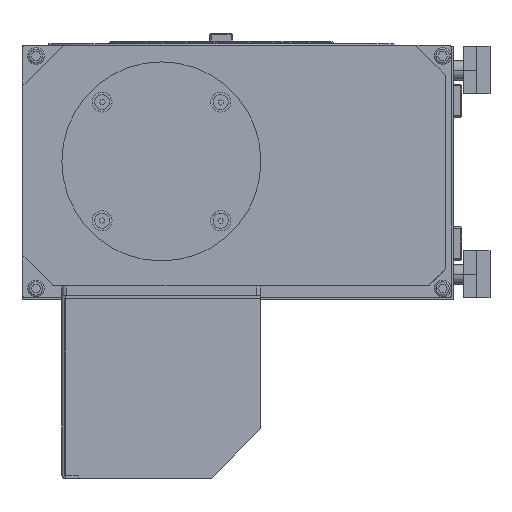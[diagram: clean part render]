
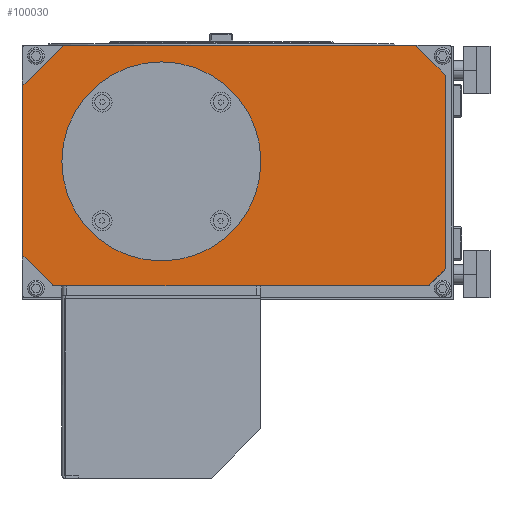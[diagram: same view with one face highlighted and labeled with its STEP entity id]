
A CAD part, left-side view. The second image highlights one B-rep face of the part: STEP entity #100030.
In plain terms, the highlighted planar face has unit normal (-1, 0, 0).
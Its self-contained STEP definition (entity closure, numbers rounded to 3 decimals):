
#1432 = CARTESIAN_POINT ( 'NONE',  ( -184., 240., -145. ) ) ;
#2158 = AXIS2_PLACEMENT_3D ( 'NONE', #89211, #34204, #98419 ) ;
#2565 = ORIENTED_EDGE ( 'NONE', *, *, #78222, .T. ) ;
#3651 = AXIS2_PLACEMENT_3D ( 'NONE', #103322, #48233, #112578 ) ;
#5868 = VERTEX_POINT ( 'NONE', #7713 ) ;
#7713 = CARTESIAN_POINT ( 'NONE',  ( -184., 4., -18.828 ) ) ;
#8560 = EDGE_CURVE ( 'NONE', #35739, #63949, #37380, .T. ) ;
#9264 = VERTEX_POINT ( 'NONE', #110722 ) ;
#13342 = CARTESIAN_POINT ( 'NONE',  ( -184., 0., 0. ) ) ;
#15255 = EDGE_CURVE ( 'NONE', #104340, #9264, #27837, .T. ) ;
#16831 = AXIS2_PLACEMENT_3D ( 'NONE', #54921, #119222, #64179 ) ;
#16860 = AXIS2_PLACEMENT_3D ( 'NONE', #102033, #46946, #111286 ) ;
#17770 = VECTOR ( 'NONE', #50633, 1000. ) ;
#18529 = CIRCLE ( 'NONE', #19383, 2. ) ;
#19383 = AXIS2_PLACEMENT_3D ( 'NONE', #19466, #83695, #28735 ) ;
#19466 = CARTESIAN_POINT ( 'NONE',  ( -184., 257., -25.828 ) ) ;
#19659 = VECTOR ( 'NONE', #91533, 1000. ) ;
#19900 = DIRECTION ( 'NONE',  ( 0., -0.707, -0.707 ) ) ;
#21593 = EDGE_CURVE ( 'NONE', #64023, #104340, #93631, .T. ) ;
#21645 = CARTESIAN_POINT ( 'NONE',  ( -184., 14.828, -145. ) ) ;
#22251 = VERTEX_POINT ( 'NONE', #95199 ) ;
#22544 = DIRECTION ( 'NONE',  ( 0., 0., -1. ) ) ;
#23786 = DIRECTION ( 'NONE',  ( 0., -1., 0. ) ) ;
#24272 = VECTOR ( 'NONE', #114497, 1000. ) ;
#26038 = VERTEX_POINT ( 'NONE', #21645 ) ;
#26165 = CARTESIAN_POINT ( 'NONE',  ( -184., 239.172, -143. ) ) ;
#26812 = CARTESIAN_POINT ( 'NONE',  ( -184., 259., -126. ) ) ;
#27691 = DIRECTION ( 'NONE',  ( 0., 1., 0. ) ) ;
#27837 = CIRCLE ( 'NONE', #119043, 2. ) ;
#28735 = DIRECTION ( 'NONE',  ( 0., 0., -1. ) ) ;
#31624 = EDGE_CURVE ( 'NONE', #47137, #111696, #88200, .T. ) ;
#32601 = CARTESIAN_POINT ( 'NONE',  ( -184., 22., 0. ) ) ;
#32969 = ORIENTED_EDGE ( 'NONE', *, *, #85755, .T. ) ;
#34064 = CARTESIAN_POINT ( 'NONE',  ( -184., 13.414, -144.414 ) ) ;
#34204 = DIRECTION ( 'NONE',  ( -1., 0., 0. ) ) ;
#34396 = EDGE_CURVE ( 'NONE', #107933, #96150, #92874, .T. ) ;
#34971 = CIRCLE ( 'NONE', #16831, 2. ) ;
#35385 = DIRECTION ( 'NONE',  ( 0., 0., -1. ) ) ;
#35739 = VERTEX_POINT ( 'NONE', #66857 ) ;
#37380 = CIRCLE ( 'NONE', #59068, 2. ) ;
#39510 = CARTESIAN_POINT ( 'NONE',  ( -184., 14.828, -143. ) ) ;
#40967 = EDGE_LOOP ( 'NONE', ( #82378, #49615, #61892, #46907, #67462, #105415, #90124, #73253, #55729, #73243, #58054, #82297, #2565, #47644, #85382, #32969 ) ) ;
#43789 = CARTESIAN_POINT ( 'NONE',  ( -184., 233.172, -2. ) ) ;
#43971 = EDGE_CURVE ( 'NONE', #22251, #35739, #73030, .T. ) ;
#44021 = VECTOR ( 'NONE', #118779, 1000. ) ;
#44809 = VECTOR ( 'NONE', #19900, 1000. ) ;
#45088 = CIRCLE ( 'NONE', #51406, 2. ) ;
#46907 = ORIENTED_EDGE ( 'NONE', *, *, #52880, .T. ) ;
#46946 = DIRECTION ( 'NONE',  ( -1., 0., 0. ) ) ;
#47073 = CARTESIAN_POINT ( 'NONE',  ( -184., 258.414, -126.586 ) ) ;
#47137 = VERTEX_POINT ( 'NONE', #62603 ) ;
#47644 = ORIENTED_EDGE ( 'NONE', *, *, #118303, .T. ) ;
#48233 = DIRECTION ( 'NONE',  ( -1., 0., 0. ) ) ;
#48626 = VECTOR ( 'NONE', #27691, 1000. ) ;
#48648 = LINE ( 'NONE', #50152, #24272 ) ;
#48700 = DIRECTION ( 'NONE',  ( 0., 0., -1. ) ) ;
#49100 = FACE_OUTER_BOUND ( 'NONE', #40967, .T. ) ;
#49615 = ORIENTED_EDGE ( 'NONE', *, *, #15255, .T. ) ;
#50152 = CARTESIAN_POINT ( 'NONE',  ( -184., 259., -25. ) ) ;
#50255 = EDGE_CURVE ( 'NONE', #108625, #5868, #101883, .T. ) ;
#50623 = CARTESIAN_POINT ( 'NONE',  ( -184., 4.586, -135.586 ) ) ;
#50633 = DIRECTION ( 'NONE',  ( 0., 0.707, 0.707 ) ) ;
#51406 = AXIS2_PLACEMENT_3D ( 'NONE', #39510, #103782, #48700 ) ;
#52880 = EDGE_CURVE ( 'NONE', #26038, #107933, #45088, .T. ) ;
#53051 = DIRECTION ( 'NONE',  ( 0., 0., -1. ) ) ;
#53991 = CARTESIAN_POINT ( 'NONE',  ( -184., 259., -25.828 ) ) ;
#54400 = CARTESIAN_POINT ( 'NONE',  ( -184., 234.586, -0.586 ) ) ;
#54921 = CARTESIAN_POINT ( 'NONE',  ( -184., 257., -125.172 ) ) ;
#55729 = ORIENTED_EDGE ( 'NONE', *, *, #31624, .T. ) ;
#57565 = CARTESIAN_POINT ( 'NONE',  ( -184., 258.414, -24.414 ) ) ;
#57767 = CIRCLE ( 'NONE', #3651, 2. ) ;
#58054 = ORIENTED_EDGE ( 'NONE', *, *, #43971, .T. ) ;
#58082 = EDGE_CURVE ( 'NONE', #9264, #26038, #73272, .T. ) ;
#59068 = AXIS2_PLACEMENT_3D ( 'NONE', #43789, #108099, #53051 ) ;
#60332 = CARTESIAN_POINT ( 'NONE',  ( -184., 14., -145. ) ) ;
#61892 = ORIENTED_EDGE ( 'NONE', *, *, #58082, .T. ) ;
#62603 = CARTESIAN_POINT ( 'NONE',  ( -184., 4.586, -17.414 ) ) ;
#63949 = VERTEX_POINT ( 'NONE', #54400 ) ;
#64023 = VERTEX_POINT ( 'NONE', #47073 ) ;
#64179 = DIRECTION ( 'NONE',  ( 0., 0., -1. ) ) ;
#66857 = CARTESIAN_POINT ( 'NONE',  ( -184., 233.172, 0. ) ) ;
#67462 = ORIENTED_EDGE ( 'NONE', *, *, #34396, .T. ) ;
#68227 = CIRCLE ( 'NONE', #2158, 2. ) ;
#68423 = LINE ( 'NONE', #26812, #44021 ) ;
#71287 = AXIS2_PLACEMENT_3D ( 'NONE', #13342, #77536, #22544 ) ;
#72961 = VERTEX_POINT ( 'NONE', #102067 ) ;
#73030 = LINE ( 'NONE', #82653, #48626 ) ;
#73243 = ORIENTED_EDGE ( 'NONE', *, *, #99932, .T. ) ;
#73253 = ORIENTED_EDGE ( 'NONE', *, *, #115653, .T. ) ;
#73272 = LINE ( 'NONE', #60332, #94867 ) ;
#74776 = CARTESIAN_POINT ( 'NONE',  ( -184., 4., -134.172 ) ) ;
#77407 = VECTOR ( 'NONE', #89728, 1000. ) ;
#77536 = DIRECTION ( 'NONE',  ( 1., 0., 0. ) ) ;
#78222 = EDGE_CURVE ( 'NONE', #63949, #101868, #48648, .T. ) ;
#81206 = CARTESIAN_POINT ( 'NONE',  ( -184., 240.586, -144.414 ) ) ;
#82297 = ORIENTED_EDGE ( 'NONE', *, *, #8560, .T. ) ;
#82320 = CARTESIAN_POINT ( 'NONE',  ( -184., 4., -135. ) ) ;
#82378 = ORIENTED_EDGE ( 'NONE', *, *, #21593, .T. ) ;
#82653 = CARTESIAN_POINT ( 'NONE',  ( -184., 234., 0. ) ) ;
#83695 = DIRECTION ( 'NONE',  ( -1., 0., 0. ) ) ;
#83951 = EDGE_CURVE ( 'NONE', #103540, #72961, #68423, .T. ) ;
#85382 = ORIENTED_EDGE ( 'NONE', *, *, #83951, .T. ) ;
#85755 = EDGE_CURVE ( 'NONE', #72961, #64023, #34971, .T. ) ;
#86302 = CIRCLE ( 'NONE', #16860, 2. ) ;
#88200 = LINE ( 'NONE', #32601, #17770 ) ;
#89211 = CARTESIAN_POINT ( 'NONE',  ( -184., 6., -18.828 ) ) ;
#89728 = DIRECTION ( 'NONE',  ( 0., 0., 1. ) ) ;
#90124 = ORIENTED_EDGE ( 'NONE', *, *, #50255, .T. ) ;
#90393 = DIRECTION ( 'NONE',  ( -1., 0., 0. ) ) ;
#91533 = DIRECTION ( 'NONE',  ( 0., -0.707, 0.707 ) ) ;
#92874 = LINE ( 'NONE', #82320, #19659 ) ;
#93631 = LINE ( 'NONE', #1432, #44809 ) ;
#94192 = EDGE_CURVE ( 'NONE', #96150, #108625, #86302, .T. ) ;
#94567 = CARTESIAN_POINT ( 'NONE',  ( -184., 21.414, -0.586 ) ) ;
#94867 = VECTOR ( 'NONE', #23786, 1000. ) ;
#95199 = CARTESIAN_POINT ( 'NONE',  ( -184., 22.828, 0. ) ) ;
#96150 = VERTEX_POINT ( 'NONE', #50623 ) ;
#98419 = DIRECTION ( 'NONE',  ( 0., 0., -1. ) ) ;
#98969 = CARTESIAN_POINT ( 'NONE',  ( -184., 4., -18. ) ) ;
#99932 = EDGE_CURVE ( 'NONE', #111696, #22251, #57767, .T. ) ;
#100030 = ADVANCED_FACE ( 'NONE', ( #49100 ), #114176, .F. ) ;
#101868 = VERTEX_POINT ( 'NONE', #57565 ) ;
#101883 = LINE ( 'NONE', #98969, #77407 ) ;
#102033 = CARTESIAN_POINT ( 'NONE',  ( -184., 6., -134.172 ) ) ;
#102067 = CARTESIAN_POINT ( 'NONE',  ( -184., 259., -125.172 ) ) ;
#103322 = CARTESIAN_POINT ( 'NONE',  ( -184., 22.828, -2. ) ) ;
#103540 = VERTEX_POINT ( 'NONE', #53991 ) ;
#103782 = DIRECTION ( 'NONE',  ( -1., 0., 0. ) ) ;
#104340 = VERTEX_POINT ( 'NONE', #81206 ) ;
#105415 = ORIENTED_EDGE ( 'NONE', *, *, #94192, .T. ) ;
#107933 = VERTEX_POINT ( 'NONE', #34064 ) ;
#108099 = DIRECTION ( 'NONE',  ( -1., 0., 0. ) ) ;
#108625 = VERTEX_POINT ( 'NONE', #74776 ) ;
#110722 = CARTESIAN_POINT ( 'NONE',  ( -184., 239.172, -145. ) ) ;
#111286 = DIRECTION ( 'NONE',  ( 0., 0., -1. ) ) ;
#111696 = VERTEX_POINT ( 'NONE', #94567 ) ;
#112578 = DIRECTION ( 'NONE',  ( 0., 0., -1. ) ) ;
#114176 = PLANE ( 'NONE',  #71287 ) ;
#114497 = DIRECTION ( 'NONE',  ( 0., 0.707, -0.707 ) ) ;
#115653 = EDGE_CURVE ( 'NONE', #5868, #47137, #68227, .T. ) ;
#118303 = EDGE_CURVE ( 'NONE', #101868, #103540, #18529, .T. ) ;
#118779 = DIRECTION ( 'NONE',  ( 0., 0., -1. ) ) ;
#119043 = AXIS2_PLACEMENT_3D ( 'NONE', #26165, #90393, #35385 ) ;
#119222 = DIRECTION ( 'NONE',  ( -1., 0., 0. ) ) ;
